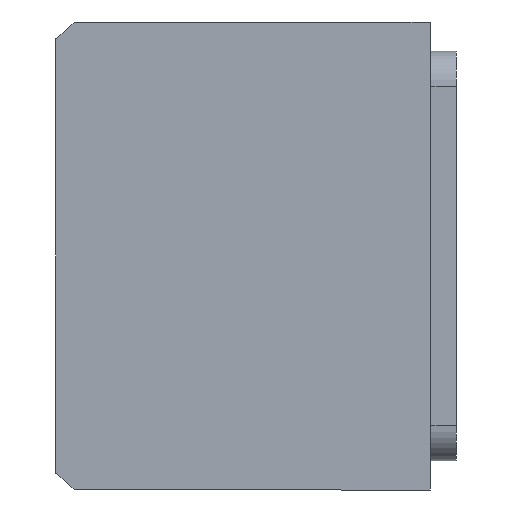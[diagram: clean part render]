
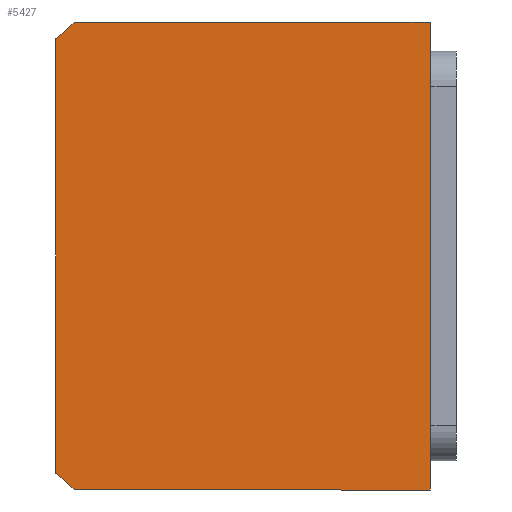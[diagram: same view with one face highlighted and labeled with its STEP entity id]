
A CAD part, front view. The second image highlights one B-rep face of the part: STEP entity #5427.
In plain terms, the highlighted planar face has unit normal (0, -1, 0) as drawn and (0, 0, -1) by its records, which use the part's own axes.
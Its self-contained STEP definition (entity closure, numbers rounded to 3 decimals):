
#210 = CIRCLE ( 'NONE', #6725, 51. ) ;
#363 = EDGE_CURVE ( 'NONE', #1124, #6411, #7392, .T. ) ;
#453 = VERTEX_POINT ( 'NONE', #6477 ) ;
#793 = ORIENTED_EDGE ( 'NONE', *, *, #4315, .F. ) ;
#887 = CARTESIAN_POINT ( 'NONE',  ( 0., -40.507, 0. ) ) ;
#1124 = VERTEX_POINT ( 'NONE', #3794 ) ;
#1320 = FACE_OUTER_BOUND ( 'NONE', #7199, .T. ) ;
#1442 = VECTOR ( 'NONE', #3900, 1000. ) ;
#1700 = DIRECTION ( 'NONE',  ( 1., 0., 0. ) ) ;
#1705 = EDGE_CURVE ( 'NONE', #3086, #8945, #3558, .T. ) ;
#2034 = CARTESIAN_POINT ( 'NONE',  ( 40., -72.145, 0. ) ) ;
#2268 = CARTESIAN_POINT ( 'NONE',  ( 0., -40.507, 0. ) ) ;
#2665 = ORIENTED_EDGE ( 'NONE', *, *, #363, .F. ) ;
#2916 = ORIENTED_EDGE ( 'NONE', *, *, #1705, .F. ) ;
#3045 = CARTESIAN_POINT ( 'NONE',  ( -40., -11.507, 0. ) ) ;
#3064 = DIRECTION ( 'NONE',  ( 1., 0., 0. ) ) ;
#3086 = VERTEX_POINT ( 'NONE', #2034 ) ;
#3541 = LINE ( 'NONE', #3045, #1442 ) ;
#3558 = LINE ( 'NONE', #9729, #5410 ) ;
#3794 = CARTESIAN_POINT ( 'NONE',  ( -37.094, -75.507, 0. ) ) ;
#3900 = DIRECTION ( 'NONE',  ( 0., -1., 0. ) ) ;
#4005 = DIRECTION ( 'NONE',  ( -1., 0., 0. ) ) ;
#4144 = DIRECTION ( 'NONE',  ( 0., 0., 1. ) ) ;
#4315 = EDGE_CURVE ( 'NONE', #6411, #3086, #4792, .T. ) ;
#4537 = AXIS2_PLACEMENT_3D ( 'NONE', #2268, #7749, #3064 ) ;
#4692 = LINE ( 'NONE', #7127, #8573 ) ;
#4792 = CIRCLE ( 'NONE', #4537, 51. ) ;
#5296 = VECTOR ( 'NONE', #7427, 1000. ) ;
#5410 = VECTOR ( 'NONE', #9851, 1000. ) ;
#5427 = ADVANCED_FACE ( 'NONE', ( #1320 ), #8805, .F. ) ;
#5526 = CARTESIAN_POINT ( 'NONE',  ( -40., -72.145, 0. ) ) ;
#5853 = EDGE_CURVE ( 'NONE', #453, #6358, #3541, .T. ) ;
#6355 = CARTESIAN_POINT ( 'NONE',  ( 37.094, -75.507, 0. ) ) ;
#6358 = VERTEX_POINT ( 'NONE', #5526 ) ;
#6411 = VERTEX_POINT ( 'NONE', #6355 ) ;
#6413 = DIRECTION ( 'NONE',  ( 0., 0., 1. ) ) ;
#6477 = CARTESIAN_POINT ( 'NONE',  ( -40., -11.507, 0. ) ) ;
#6701 = CARTESIAN_POINT ( 'NONE',  ( -40., -75.507, 0. ) ) ;
#6725 = AXIS2_PLACEMENT_3D ( 'NONE', #887, #6413, #1700 ) ;
#7090 = ORIENTED_EDGE ( 'NONE', *, *, #7170, .F. ) ;
#7127 = CARTESIAN_POINT ( 'NONE',  ( -40., -11.507, 0. ) ) ;
#7170 = EDGE_CURVE ( 'NONE', #8945, #453, #4692, .T. ) ;
#7199 = EDGE_LOOP ( 'NONE', ( #7335, #9119, #7090, #2916, #793, #2665 ) ) ;
#7202 = EDGE_CURVE ( 'NONE', #6358, #1124, #210, .T. ) ;
#7278 = CARTESIAN_POINT ( 'NONE',  ( 0., 0., 0. ) ) ;
#7322 = AXIS2_PLACEMENT_3D ( 'NONE', #7278, #4144, #9592 ) ;
#7335 = ORIENTED_EDGE ( 'NONE', *, *, #7202, .F. ) ;
#7392 = LINE ( 'NONE', #6701, #5296 ) ;
#7427 = DIRECTION ( 'NONE',  ( 1., 0., 0. ) ) ;
#7717 = CARTESIAN_POINT ( 'NONE',  ( 40., -11.507, 0. ) ) ;
#7749 = DIRECTION ( 'NONE',  ( 0., 0., 1. ) ) ;
#8573 = VECTOR ( 'NONE', #4005, 1000. ) ;
#8805 = PLANE ( 'NONE',  #7322 ) ;
#8945 = VERTEX_POINT ( 'NONE', #7717 ) ;
#9119 = ORIENTED_EDGE ( 'NONE', *, *, #5853, .F. ) ;
#9592 = DIRECTION ( 'NONE',  ( 1., 0., 0. ) ) ;
#9729 = CARTESIAN_POINT ( 'NONE',  ( 40., -11.507, 0. ) ) ;
#9851 = DIRECTION ( 'NONE',  ( 0., 1., 0. ) ) ;
